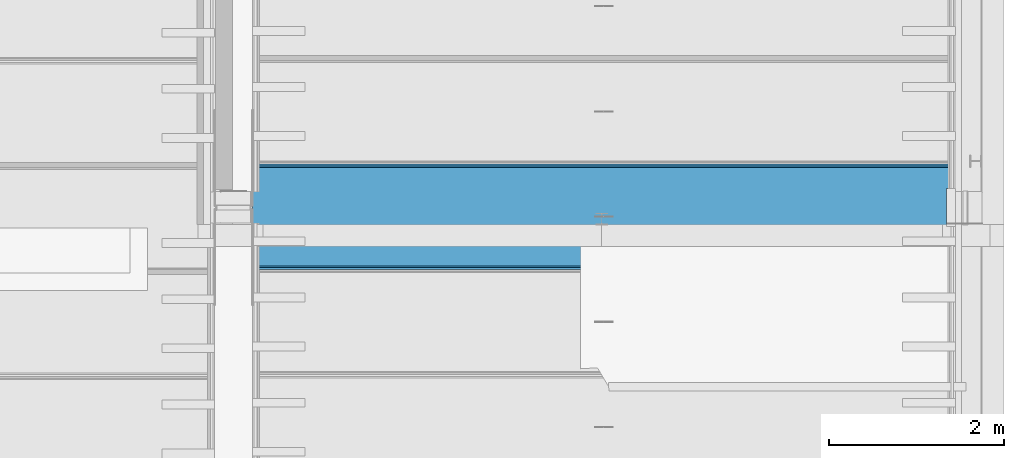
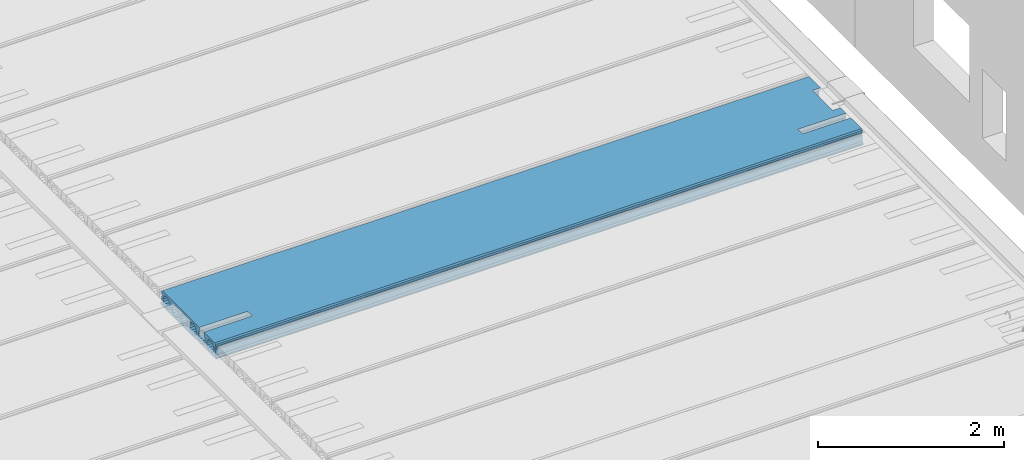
# One storey, part 90 of 230: 1 beam.
"""IFC4X3_ADD2 building model written with IfcOpenShell, lengths in millimetres."""

from ifc_helpers import new_model, si_unit, direction, origin_with_axes, place, context, subcontext, project, spatial, polygons, element, save


model = new_model("IFC4X3_ADD2")

# Units and contexts
model_context = context("Model", 3, precision=1e-05, world=origin_with_axes(), true_north=direction((0.0, 1.0)))
body_context = subcontext(model_context, "Body", "Model", "MODEL_VIEW")
ifc_project = project(units=[si_unit("LENGTHUNIT", "METRE", prefix="MILLI"), si_unit("AREAUNIT", "SQUARE_METRE"), si_unit("VOLUMEUNIT", "CUBIC_METRE"), si_unit("PLANEANGLEUNIT", "RADIAN"), si_unit("TIMEUNIT", "SECOND"), si_unit("MASSUNIT", "GRAM")], contexts=[model_context])

# Site, building, storey
site_placement = place(None, origin_with_axes())
site = spatial("IfcSite", under=ifc_project, at=site_placement, Name="Site", CompositionType="ELEMENT")
building_placement = place(site_placement, origin_with_axes())
building = spatial("IfcBuilding", under=site, at=building_placement, Name="IFC Building Story")
storey_placement = place(building_placement, origin_with_axes())
storey = spatial("IfcBuildingStorey", under=building, at=storey_placement, Name="ETAGE 00 (0)", Elevation=0.0)

# Beam
beam_placement = place(storey_placement, origin_with_axes())
element("IfcBeam", 1, at=beam_placement, inside=storey, Name="HOLLOWCORE SLAB", ObjectType="EB_SP200", context=body_context, shape_type="Tessellation", body=[
    polygons([(40181.189, -7551.0, 3999.9999909), (40181.189, -8729.0, 3999.9999909), (40181.189, -8740.0, 4012.9999909), (40181.189, -8740.0, 4029.9999909), (40181.189, -8720.0, 4044.9999909), (40181.189, -8718.549987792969, 4119.9999909), (40181.189, -8711.017378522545, 4128.676139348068), (40181.189, -8708.16006998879, 4139.805000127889), (40181.189, -8710.58136358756, 4151.036789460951), (40181.189, -8717.77001953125, 4159.9999909), (40181.189, -8717.288703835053, 4185.002769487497), (40181.189, -8702.0, 4199.9999909), (40181.189, -8470.0, 4199.9999909), (40181.189, -8470.0, 4155.806158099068), (40181.189, -8474.679455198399, 4152.679446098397), (40181.189, -8490.82902517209, 4128.509906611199), (40181.189, -8496.5, 4099.9999909), (40181.189, -8490.82902517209, 4071.490075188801), (40181.189, -8474.679455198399, 4047.320535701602), (40181.189, -8450.509915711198, 4031.170965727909), (40181.189, -8422.0, 4025.4999909), (40181.189, -8393.490084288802, 4031.170965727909), (40181.189, -8369.320544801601, 4047.320535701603), (40181.189, -8353.17097482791, 4071.490075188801), (40181.189, -8347.5, 4099.9999909), (40181.189, -8353.17097482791, 4128.509906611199), (40181.189, -8369.320544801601, 4152.679446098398), (40181.189, -8370.0, 4153.13344354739), (40181.189, -8370.0, 4199.9999909), (40181.189, -7578.0, 4199.9999909), (40181.189, -7562.711296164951, 4185.002769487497), (40181.189, -7562.22998046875, 4159.9999909), (40181.189, -7569.41863641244, 4151.036789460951), (40181.189, -7571.839930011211, 4139.805000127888), (40181.189, -7568.982621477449, 4128.676139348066), (40181.189, -7561.450012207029, 4119.9999909), (40181.189, -7560.0, 4044.9999909), (40181.189, -7540.0, 4029.9999909), (40181.189, -7540.0, 4012.9999909), (40181.189, -7617.320544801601, 4152.679446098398), (40181.189, -7641.4900842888, 4168.829016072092), (40181.189, -7670.0, 4174.4999909), (40181.189, -7698.5099157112, 4168.829016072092), (40181.189, -7722.679455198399, 4152.679446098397), (40181.189, -7738.82902517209, 4128.509906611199), (40181.189, -7744.5, 4099.9999909), (40181.189, -7738.82902517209, 4071.490075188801), (40181.189, -7722.679455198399, 4047.320535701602), (40181.189, -7698.5099157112, 4031.170965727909), (40181.189, -7670.0, 4025.4999909), (40181.189, -7641.4900842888, 4031.170965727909), (40181.189, -7617.320544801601, 4047.320535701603), (40181.189, -7601.17097482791, 4071.490075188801), (40181.189, -7595.5, 4099.9999909), (40181.189, -7601.17097482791, 4128.509906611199), (40181.189, -7805.320544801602, 4152.679446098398), (40181.189, -7829.490084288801, 4168.829016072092), (40181.189, -7858.0, 4174.4999909), (40181.189, -7886.509915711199, 4168.829016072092), (40181.189, -7910.679455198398, 4152.679446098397), (40181.189, -7926.829025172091, 4128.509906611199), (40181.189, -7932.5, 4099.9999909), (40181.189, -7926.829025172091, 4071.490075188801), (40181.189, -7910.679455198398, 4047.320535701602), (40181.189, -7886.509915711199, 4031.170965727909), (40181.189, -7858.0, 4025.4999909), (40181.189, -7829.490084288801, 4031.170965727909), (40181.189, -7805.320544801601, 4047.320535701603), (40181.189, -7789.17097482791, 4071.490075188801), (40181.189, -7783.5, 4099.9999909), (40181.189, -7789.17097482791, 4128.509906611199), (40181.189, -7993.320544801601, 4152.679446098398), (40181.189, -8017.490084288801, 4168.829016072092), (40181.189, -8046.0, 4174.4999909), (40181.189, -8074.509915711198, 4168.829016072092), (40181.189, -8098.679455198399, 4152.679446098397), (40181.189, -8114.829025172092, 4128.509906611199), (40181.189, -8120.5, 4099.9999909), (40181.189, -8114.82902517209, 4071.490075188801), (40181.189, -8098.679455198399, 4047.320535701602), (40181.189, -8074.509915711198, 4031.170965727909), (40181.189, -8046.0, 4025.4999909), (40181.189, -8017.490084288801, 4031.170965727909), (40181.189, -7993.320544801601, 4047.320535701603), (40181.189, -7977.170974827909, 4071.490075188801), (40181.189, -7971.5, 4099.9999909), (40181.189, -7977.170974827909, 4128.509906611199), (40181.189, -8181.320544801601, 4152.679446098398), (40181.189, -8205.490084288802, 4168.829016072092), (40181.189, -8234.0, 4174.4999909), (40181.189, -8262.5099157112, 4168.829016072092), (40181.189, -8286.679455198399, 4152.679446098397), (40181.189, -8302.82902517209, 4128.509906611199), (40181.189, -8308.5, 4099.9999909), (40181.189, -8302.82902517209, 4071.490075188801), (40181.189, -8286.679455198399, 4047.320535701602), (40181.189, -8262.5099157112, 4031.170965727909), (40181.189, -8234.0, 4025.4999909), (40181.189, -8205.490084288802, 4031.170965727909), (40181.189, -8181.320544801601, 4047.320535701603), (40181.189, -8165.170974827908, 4071.490075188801), (40181.189, -8159.5, 4099.9999909), (40181.189, -8165.17097482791, 4128.509906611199), (40181.189, -8557.320544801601, 4152.679446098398), (40181.189, -8581.4900842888, 4168.829016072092), (40181.189, -8610.0, 4174.4999909), (40181.189, -8638.5099157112, 4168.829016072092), (40181.189, -8662.679455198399, 4152.679446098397), (40181.189, -8678.829025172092, 4128.509906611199), (40181.189, -8684.5, 4099.9999909), (40181.189, -8678.829025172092, 4071.490075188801), (40181.189, -8662.679455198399, 4047.320535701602), (40181.189, -8638.5099157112, 4031.170965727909), (40181.189, -8610.0, 4025.4999909), (40181.189, -8581.4900842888, 4031.170965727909), (40181.189, -8557.320544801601, 4047.320535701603), (40181.189, -8541.170974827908, 4071.490075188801), (40181.189, -8535.5, 4099.9999909), (40181.189, -8541.170974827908, 4128.509906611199), (48196.18900000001, -8702.0, 4199.9999909), (48196.18900000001, -8717.288703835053, 4185.002769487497), (48196.18900000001, -8717.77001953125, 4159.9999909), (48196.18900000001, -8710.58136358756, 4151.036789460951), (48196.18900000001, -8708.16006998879, 4139.805000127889), (48196.18900000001, -8711.017378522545, 4128.676139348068), (48196.18900000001, -8718.549987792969, 4119.9999909), (48196.18900000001, -8720.0, 4044.9999909), (48196.18900000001, -8740.0, 4029.9999909), (48196.18900000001, -8740.0, 4012.9999909), (48196.18900000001, -8729.0, 3999.9999909), (48196.18900000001, -8250.0, 3999.9999909), (48196.18900000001, -8250.0, 4028.682588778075), (48196.18900000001, -8262.5099157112, 4031.170965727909), (48196.18900000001, -8286.679455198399, 4047.320535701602), (48196.18900000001, -8302.82902517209, 4071.490075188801), (48196.18900000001, -8308.5, 4099.9999909), (48196.18900000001, -8302.82902517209, 4128.509906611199), (48196.18900000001, -8286.679455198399, 4152.679446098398), (48196.18900000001, -8262.5099157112, 4168.829016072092), (48196.18900000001, -8250.0, 4171.317393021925), (48196.18900000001, -8250.0, 4199.9999909), (48196.18900000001, -8370.0, 4199.9999909), (48196.18900000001, -8370.0, 4153.13344354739), (48196.18900000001, -8369.320544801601, 4152.679446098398), (48196.18900000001, -8353.17097482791, 4128.509906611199), (48196.18900000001, -8347.5, 4099.9999909), (48196.18900000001, -8353.17097482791, 4071.490075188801), (48196.18900000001, -8369.320544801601, 4047.320535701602), (48196.18900000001, -8393.490084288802, 4031.170965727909), (48196.18900000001, -8422.0, 4025.4999909), (48196.18900000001, -8450.509915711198, 4031.170965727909), (48196.18900000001, -8474.679455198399, 4047.320535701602), (48196.18900000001, -8490.82902517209, 4071.490075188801), (48196.18900000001, -8496.5, 4099.9999909), (48196.18900000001, -8490.82902517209, 4128.509906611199), (48196.18900000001, -8474.679455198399, 4152.679446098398), (48196.18900000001, -8470.0, 4155.806158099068), (48196.18900000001, -8470.0, 4199.9999909), (48196.18900000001, -8557.320544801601, 4152.679446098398), (48196.18900000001, -8541.170974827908, 4128.509906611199), (48196.18900000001, -8535.5, 4099.9999909), (48196.18900000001, -8541.170974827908, 4071.490075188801), (48196.18900000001, -8557.320544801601, 4047.320535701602), (48196.18900000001, -8581.4900842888, 4031.170965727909), (48196.18900000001, -8610.0, 4025.4999909), (48196.18900000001, -8638.5099157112, 4031.170965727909), (48196.18900000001, -8662.679455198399, 4047.320535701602), (48196.18900000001, -8678.829025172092, 4071.490075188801), (48196.18900000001, -8684.5, 4099.9999909), (48196.18900000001, -8678.829025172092, 4128.509906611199), (48196.18900000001, -8662.679455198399, 4152.679446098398), (48196.18900000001, -8638.5099157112, 4168.829016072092), (48196.18900000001, -8610.0, 4174.4999909), (48196.18900000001, -8581.4900842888, 4168.829016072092), (48196.18900000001, -7551.0, 3999.9999909), (48196.18900000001, -7820.0, 3999.9999909), (48096.18900000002, -7820.0, 3999.9999909), (48096.18900000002, -8250.0, 3999.9999909), (48196.18900000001, -7820.0, 4199.9999909), (48196.18900000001, -7578.0, 4199.9999909), (40781.189, -8370.0, 4199.9999909), (40781.189, -8470.0, 4199.9999909), (47596.18900000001, -8470.0, 4199.9999909), (47596.18900000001, -8370.0, 4199.9999909), (48096.18900000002, -8250.0, 4199.9999909), (48096.18900000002, -7820.0, 4199.9999909), (48196.18900000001, -7562.711296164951, 4185.002769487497), (48196.18900000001, -7562.22998046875, 4159.9999909), (48196.18900000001, -7569.41863641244, 4151.036789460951), (48196.18900000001, -7571.839930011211, 4139.805000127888), (48196.18900000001, -7568.982621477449, 4128.676139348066), (48196.18900000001, -7561.450012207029, 4119.9999909), (48196.18900000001, -7560.0, 4044.9999909), (48196.18900000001, -7540.0, 4029.9999909), (48196.18900000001, -7540.0, 4012.9999909), (48196.18900000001, -7617.320544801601, 4152.679446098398), (48196.18900000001, -7641.4900842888, 4168.829016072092), (48196.18900000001, -7670.0, 4174.4999909), (48196.18900000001, -7698.5099157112, 4168.829016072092), (48196.18900000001, -7722.679455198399, 4152.679446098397), (48196.18900000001, -7738.82902517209, 4128.509906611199), (48196.18900000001, -7744.5, 4099.9999909), (48196.18900000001, -7738.82902517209, 4071.490075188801), (48196.18900000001, -7722.679455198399, 4047.320535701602), (48196.18900000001, -7698.5099157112, 4031.170965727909), (48196.18900000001, -7670.0, 4025.4999909), (48196.18900000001, -7641.4900842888, 4031.170965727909), (48196.18900000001, -7617.320544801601, 4047.320535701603), (48196.18900000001, -7601.17097482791, 4071.490075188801), (48196.18900000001, -7595.5, 4099.9999909), (48196.18900000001, -7601.17097482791, 4128.509906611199), (48196.18900000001, -7805.320544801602, 4152.679446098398), (48196.18900000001, -7820.0, 4162.487944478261), (48096.18900000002, -7820.0, 4162.487944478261), (48096.18900000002, -7829.490084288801, 4168.829016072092), (48096.18900000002, -7858.0, 4174.4999909), (48096.18900000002, -7886.509915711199, 4168.829016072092), (48096.18900000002, -7910.679455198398, 4152.679446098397), (48096.18900000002, -7926.829025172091, 4128.509906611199), (48096.18900000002, -7932.5, 4099.9999909), (48096.18900000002, -7926.829025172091, 4071.490075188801), (48096.18900000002, -7910.679455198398, 4047.320535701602), (48096.18900000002, -7886.509915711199, 4031.170965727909), (48096.18900000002, -7858.0, 4025.4999909), (48096.18900000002, -7829.490084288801, 4031.170965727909), (48096.18900000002, -7820.0, 4037.51203732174), (48196.18900000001, -7820.0, 4037.51203732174), (48196.18900000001, -7805.320544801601, 4047.320535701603), (48196.18900000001, -7789.17097482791, 4071.490075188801), (48196.18900000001, -7783.5, 4099.9999909), (48196.18900000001, -7789.17097482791, 4128.509906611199), (48096.18900000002, -7993.320544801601, 4152.679446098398), (48096.18900000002, -8017.490084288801, 4168.829016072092), (48096.18900000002, -8046.0, 4174.4999909), (48096.18900000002, -8074.509915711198, 4168.829016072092), (48096.18900000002, -8098.679455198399, 4152.679446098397), (48096.18900000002, -8114.829025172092, 4128.509906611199), (48096.18900000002, -8120.5, 4099.9999909), (48096.18900000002, -8114.82902517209, 4071.490075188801), (48096.18900000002, -8098.679455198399, 4047.320535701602), (48096.18900000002, -8074.509915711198, 4031.170965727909), (48096.18900000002, -8046.0, 4025.4999909), (48096.18900000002, -8017.490084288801, 4031.170965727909), (48096.18900000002, -7993.320544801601, 4047.320535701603), (48096.18900000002, -7977.170974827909, 4071.490075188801), (48096.18900000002, -7971.5, 4099.9999909), (48096.18900000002, -7977.170974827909, 4128.509906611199), (48096.18900000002, -8181.320544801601, 4152.679446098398), (48096.18900000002, -8205.490084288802, 4168.829016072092), (48096.18900000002, -8234.0, 4174.4999909), (48096.18900000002, -8250.0, 4171.317393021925), (48096.18900000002, -8250.0, 4028.682588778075), (48096.18900000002, -8234.0, 4025.4999909), (48096.18900000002, -8205.490084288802, 4031.170965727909), (48096.18900000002, -8181.320544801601, 4047.320535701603), (48096.18900000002, -8165.170974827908, 4071.490075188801), (48096.18900000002, -8159.5, 4099.9999909), (48096.18900000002, -8165.17097482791, 4128.509906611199), (47596.18900000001, -8370.0, 4153.13344354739), (47596.18900000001, -8393.490084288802, 4168.829016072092), (40781.189, -8393.490084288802, 4168.829016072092), (40781.189, -8370.0, 4153.13344354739), (47596.18900000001, -8422.0, 4174.4999909), (40781.189, -8422.0, 4174.4999909), (47596.18900000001, -8450.509915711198, 4168.829016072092), (40781.189, -8450.509915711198, 4168.829016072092), (40781.189, -8470.0, 4155.806158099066), (47596.18900000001, -8470.0, 4155.806158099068), (48096.18900000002, -8250.0, 3999.9999969), (48096.18900000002, -7820.0, 3999.9999969), (48096.18900000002, -8250.0, 4199.999996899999), (47596.18900000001, -8370.0, 4199.999996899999), (47596.18900000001, -8470.0, 4199.999996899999), (40781.189, -8470.0, 4199.999996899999), (40781.189, -8370.0, 4199.999996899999), (48096.18900000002, -7820.0, 4199.999996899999)], [[[27, 28, 29]], [[91, 92, 26]], [[91, 26, 27]], [[91, 27, 29]], [[29, 90, 91]], [[90, 29, 75]], [[75, 89, 90]], [[75, 76, 88]], [[75, 88, 89]], [[29, 74, 75]], [[29, 59, 74]], [[59, 73, 74]], [[59, 60, 72]], [[59, 72, 73]], [[29, 58, 59]], [[29, 30, 58]], [[30, 57, 58]], [[30, 56, 57]], [[93, 94, 25]], [[93, 25, 26]], [[26, 92, 93]], [[95, 96, 24]], [[24, 25, 94]], [[24, 94, 95]], [[96, 23, 24]], [[103, 88, 76]], [[77, 78, 102]], [[77, 102, 103]], [[103, 76, 77]], [[79, 80, 101]], [[101, 102, 78]], [[101, 78, 79]], [[80, 100, 101]], [[87, 72, 60]], [[61, 62, 86]], [[61, 86, 87]], [[87, 60, 61]], [[63, 64, 85]], [[85, 86, 62]], [[85, 62, 63]], [[64, 84, 85]], [[43, 44, 71]], [[43, 71, 56]], [[56, 42, 43]], [[56, 30, 42]], [[30, 41, 42]], [[30, 40, 41]], [[45, 46, 70]], [[45, 70, 71]], [[71, 44, 45]], [[47, 48, 69]], [[69, 70, 46]], [[69, 46, 47]], [[33, 34, 55]], [[33, 55, 40]], [[40, 30, 31]], [[40, 31, 32]], [[40, 32, 33]], [[35, 36, 54]], [[35, 54, 55]], [[55, 34, 35]], [[36, 37, 53]], [[36, 53, 54]], [[37, 38, 39]], [[37, 39, 1]], [[1, 52, 53]], [[1, 53, 37]], [[1, 51, 52]], [[1, 50, 51]], [[1, 49, 50]], [[1, 68, 49]], [[68, 69, 48]], [[68, 48, 49]], [[1, 67, 68]], [[1, 66, 67]], [[1, 83, 66]], [[83, 65, 66]], [[83, 84, 64]], [[83, 64, 65]], [[1, 82, 83]], [[1, 99, 82]], [[99, 81, 82]], [[99, 100, 80]], [[99, 80, 81]], [[1, 98, 99]], [[1, 22, 98]], [[22, 97, 98]], [[22, 23, 96]], [[22, 96, 97]], [[1, 21, 22]], [[1, 2, 21]], [[2, 20, 21]], [[2, 19, 20]], [[9, 10, 11]], [[9, 11, 12]], [[108, 109, 8]], [[108, 8, 9]], [[9, 12, 107]], [[9, 107, 108]], [[12, 106, 107]], [[106, 12, 13]], [[13, 105, 106]], [[13, 104, 105]], [[109, 7, 8]], [[111, 112, 5]], [[5, 6, 110]], [[5, 110, 111]], [[6, 7, 109]], [[6, 109, 110]], [[115, 116, 18]], [[115, 18, 19]], [[19, 114, 115]], [[19, 2, 114]], [[2, 113, 114]], [[2, 5, 112]], [[2, 112, 113]], [[2, 3, 4]], [[2, 4, 5]], [[117, 118, 17]], [[117, 17, 18]], [[18, 116, 117]], [[119, 104, 16]], [[16, 17, 118]], [[16, 118, 119]], [[104, 13, 15]], [[104, 15, 16]], [[13, 14, 15]], [[127, 128, 129]], [[127, 129, 130]], [[139, 140, 141]], [[141, 138, 139]], [[138, 141, 142]], [[142, 143, 137]], [[142, 137, 138]], [[145, 146, 136]], [[145, 136, 137]], [[137, 144, 145]], [[137, 143, 144]], [[147, 148, 135]], [[135, 136, 146]], [[135, 146, 147]], [[148, 134, 135]], [[156, 157, 158]], [[158, 159, 155]], [[158, 155, 156]], [[160, 161, 154]], [[160, 154, 155]], [[155, 159, 160]], [[162, 163, 153]], [[153, 154, 161]], [[153, 161, 162]], [[169, 170, 125]], [[169, 125, 126]], [[126, 127, 168]], [[126, 168, 169]], [[127, 130, 167]], [[127, 167, 168]], [[130, 166, 167]], [[130, 165, 166]], [[130, 164, 165]], [[130, 152, 164]], [[152, 153, 163]], [[152, 163, 164]], [[130, 151, 152]], [[130, 150, 151]], [[130, 131, 150]], [[131, 149, 150]], [[131, 134, 148]], [[131, 148, 149]], [[131, 133, 134]], [[131, 132, 133]], [[170, 124, 125]], [[174, 159, 158]], [[158, 173, 174]], [[158, 120, 173]], [[120, 172, 173]], [[120, 123, 171]], [[120, 171, 172]], [[123, 124, 170]], [[123, 170, 171]], [[120, 121, 122]], [[120, 122, 123]], [[178, 131, 130]], [[178, 130, 2]], [[178, 2, 1]], [[1, 177, 178]], [[1, 175, 177]], [[175, 176, 177]], [[3, 2, 130, 129]], [[4, 3, 129, 128]], [[5, 4, 128, 127]], [[6, 5, 127, 126]], [[7, 6, 126, 125]], [[8, 7, 125, 124]], [[9, 8, 124, 123]], [[10, 9, 123, 122]], [[11, 10, 122, 121]], [[12, 11, 121, 120]], [[182, 13, 12]], [[182, 12, 120]], [[120, 181, 182]], [[186, 179, 180]], [[186, 180, 184]], [[184, 185, 186]], [[184, 142, 185]], [[142, 141, 185]], [[184, 180, 30]], [[30, 183, 184]], [[30, 181, 120]], [[30, 120, 183]], [[120, 158, 183]], [[30, 29, 181]], [[31, 30, 180, 187]], [[32, 31, 187, 188]], [[33, 32, 188, 189]], [[34, 33, 189, 190]], [[35, 34, 190, 191]], [[36, 35, 191, 192]], [[37, 36, 192, 193]], [[38, 37, 193, 194]], [[39, 38, 194, 195]], [[1, 39, 195, 175]], [[41, 40, 196, 197]], [[42, 41, 197, 198]], [[43, 42, 198, 199]], [[44, 43, 199, 200]], [[45, 44, 200, 201]], [[46, 45, 201, 202]], [[47, 46, 202, 203]], [[48, 47, 203, 204]], [[49, 48, 204, 205]], [[50, 49, 205, 206]], [[51, 50, 206, 207]], [[52, 51, 207, 208]], [[53, 52, 208, 209]], [[54, 53, 209, 210]], [[55, 54, 210, 211]], [[40, 55, 211, 196]], [[214, 215, 57]], [[57, 56, 212]], [[57, 212, 214]], [[212, 213, 214]], [[58, 57, 215, 216]], [[59, 58, 216, 217]], [[60, 59, 217, 218]], [[61, 60, 218, 219]], [[62, 61, 219, 220]], [[63, 62, 220, 221]], [[64, 63, 221, 222]], [[65, 64, 222, 223]], [[66, 65, 223, 224]], [[67, 66, 224, 225]], [[226, 227, 228]], [[226, 228, 68]], [[226, 68, 67]], [[67, 225, 226]], [[69, 68, 228, 229]], [[70, 69, 229, 230]], [[71, 70, 230, 231]], [[56, 71, 231, 212]], [[73, 72, 232, 233]], [[74, 73, 233, 234]], [[75, 74, 234, 235]], [[76, 75, 235, 236]], [[77, 76, 236, 237]], [[78, 77, 237, 238]], [[79, 78, 238, 239]], [[80, 79, 239, 240]], [[81, 80, 240, 241]], [[82, 81, 241, 242]], [[83, 82, 242, 243]], [[84, 83, 243, 244]], [[85, 84, 244, 245]], [[86, 85, 245, 246]], [[87, 86, 246, 247]], [[72, 87, 247, 232]], [[89, 88, 248, 249]], [[90, 89, 249, 250]], [[251, 140, 139]], [[251, 139, 91]], [[91, 90, 250]], [[91, 250, 251]], [[92, 91, 139, 138]], [[93, 92, 138, 137]], [[94, 93, 137, 136]], [[95, 94, 136, 135]], [[96, 95, 135, 134]], [[97, 96, 134, 133]], [[252, 253, 98]], [[252, 98, 97]], [[97, 133, 252]], [[133, 132, 252]], [[99, 98, 253, 254]], [[100, 99, 254, 255]], [[101, 100, 255, 256]], [[102, 101, 256, 257]], [[103, 102, 257, 258]], [[88, 103, 258, 248]], [[262, 28, 27]], [[262, 27, 259]], [[259, 260, 261]], [[259, 261, 262]], [[27, 144, 259]], [[144, 143, 259]], [[260, 263, 264, 261]], [[263, 265, 266, 264]], [[268, 157, 156]], [[268, 156, 267]], [[267, 266, 265]], [[267, 265, 268]], [[156, 15, 267]], [[15, 14, 267]], [[16, 15, 156, 155]], [[17, 16, 155, 154]], [[18, 17, 154, 153]], [[19, 18, 153, 152]], [[20, 19, 152, 151]], [[21, 20, 151, 150]], [[22, 21, 150, 149]], [[23, 22, 149, 148]], [[24, 23, 148, 147]], [[25, 24, 147, 146]], [[26, 25, 146, 145]], [[27, 26, 145, 144]], [[105, 104, 159, 174]], [[106, 105, 174, 173]], [[107, 106, 173, 172]], [[108, 107, 172, 171]], [[109, 108, 171, 170]], [[110, 109, 170, 169]], [[111, 110, 169, 168]], [[112, 111, 168, 167]], [[113, 112, 167, 166]], [[114, 113, 166, 165]], [[115, 114, 165, 164]], [[116, 115, 164, 163]], [[117, 116, 163, 162]], [[118, 117, 162, 161]], [[119, 118, 161, 160]], [[104, 119, 160, 159]], [[176, 227, 226, 177]], [[132, 131, 269, 252]], [[253, 252, 178]], [[178, 254, 253]], [[178, 255, 254]], [[215, 214, 186]], [[186, 216, 215]], [[186, 217, 216]], [[217, 186, 233]], [[233, 218, 217]], [[233, 232, 219]], [[233, 219, 218]], [[247, 246, 220]], [[247, 220, 219]], [[219, 232, 247]], [[245, 244, 221]], [[221, 220, 246]], [[221, 246, 245]], [[244, 222, 221]], [[241, 240, 256]], [[241, 256, 255]], [[255, 242, 241]], [[242, 255, 178]], [[178, 223, 242]], [[223, 243, 242]], [[223, 222, 244]], [[223, 244, 243]], [[178, 270, 223]], [[270, 224, 223]], [[270, 225, 224]], [[270, 226, 225]], [[239, 238, 257]], [[239, 257, 256]], [[256, 240, 239]], [[237, 236, 258]], [[258, 257, 238]], [[258, 238, 237]], [[236, 248, 258]], [[234, 233, 186]], [[186, 249, 234]], [[249, 235, 234]], [[249, 248, 236]], [[249, 236, 235]], [[186, 271, 249]], [[271, 250, 249]], [[271, 251, 250]], [[158, 157, 268, 183]], [[143, 142, 272, 259]], [[260, 259, 184]], [[184, 273, 263]], [[184, 263, 260]], [[273, 265, 263]], [[273, 268, 265]], [[262, 181, 29, 28]], [[274, 267, 14, 13]], [[266, 267, 182]], [[182, 264, 266]], [[182, 275, 261]], [[182, 261, 264]], [[275, 262, 261]], [[213, 179, 276, 214]], [[228, 227, 176]], [[189, 188, 187]], [[189, 187, 180]], [[189, 180, 196]], [[196, 211, 190]], [[196, 190, 189]], [[211, 191, 190]], [[208, 207, 193]], [[193, 209, 208]], [[193, 192, 210]], [[193, 210, 209]], [[192, 191, 211]], [[192, 211, 210]], [[205, 204, 229]], [[205, 229, 228]], [[205, 228, 176]], [[176, 206, 205]], [[176, 175, 206]], [[175, 207, 206]], [[175, 193, 207]], [[175, 195, 194]], [[175, 194, 193]], [[203, 202, 230]], [[203, 230, 229]], [[229, 204, 203]], [[201, 200, 231]], [[231, 230, 202]], [[231, 202, 201]], [[197, 196, 180]], [[180, 198, 197]], [[180, 199, 198]], [[199, 180, 179]], [[179, 212, 231]], [[179, 231, 199]], [[231, 200, 199]], [[179, 213, 212]], [[141, 140, 251, 185]]]),
])

save(model, "model.ifc")
